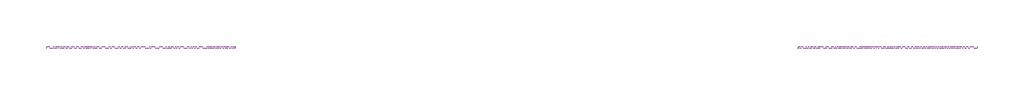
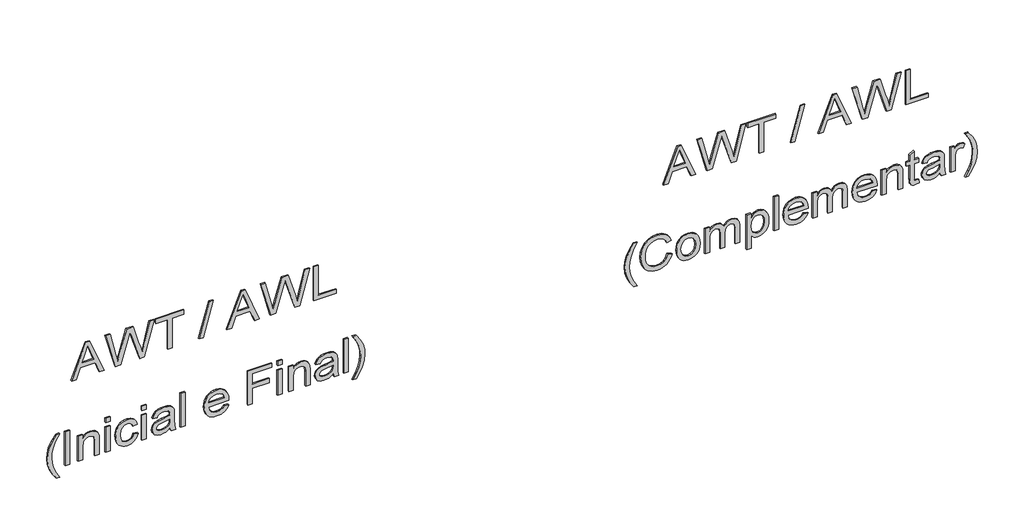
# One storey, part 14 of 14: 2 proxies.
"""IFC4 building model written with IfcOpenShell, lengths in millimetres."""

from ifc_helpers import new_model, si_unit, frame, origin, place, context, project, spatial, polyline, outline, extrude, element, save

model = new_model("IFC4")

# Units and contexts
model_context = context("Model", 3, world=origin())
ifc_project = project(units=[si_unit("LENGTHUNIT", "METRE", prefix="MILLI")], contexts=[model_context])

# Site, building, storey
site = spatial("IfcSite", under=ifc_project)
building = spatial("IfcBuilding", under=site)
storey = spatial("IfcBuildingStorey", under=building, Name="04 - Marelli - Planta Baixa - Painéis de Vidro", Elevation=36000.0)

# Proxies
placement = place(None, origin())
element("IfcBuildingElementProxy", 1, Name="300mm Arial", ObjectType="300mm Arial", at=placement, inside=storey, context=model_context, shape_type="SweptSolid", body=[
    extrude(outline(polyline([(42065.9244535, 122745.1054149), (42065.9244535, 122784.9102468), (42160.1022443, 122819.3440016), (42160.1022443, 122943.4673867), (42065.9244535, 122977.9747179), (42065.9244535, 123017.7795498), (42367.293384, 122897.4821373), (42367.293384, 122865.4028274), (42065.9244535, 122745.1054149)]), holes=[polyline([(42197.7733606, 122833.1763646), (42278.3395176, 122862.6805006), (42329.6222677, 122881.4424823), (42271.8647944, 122902.5589089), (42197.7733606, 122929.7086001), (42197.7733606, 122833.1763646)])]), frame((0.0, 8778.3159498, 0.0), z_axis=(0.0, 1.0, 0.0), x_axis=(0.0, 0.0, 1.0)), (0.0, 0.0, 1.0), 10.0),
    extrude(outline(polyline([(42065.9244535, 123111.9573405), (42065.9244535, 123157.4275551), (42291.8039986, 123223.2784323), (42330.8730665, 123234.6091977), (42298.4258745, 123244.6891644), (42065.9244535, 123316.9411882), (42065.9244535, 123357.1874785), (42367.293384, 123439.4458926), (42367.293384, 123400.5975539), (42167.4598842, 123352.478589), (42108.0837302, 123338.2047676), (42163.4131823, 123324.5011632), (42218.5954815, 123305.9047284), (42367.293384, 123262.494653), (42367.293384, 123206.5030133), (42162.1623835, 123146.7589773), (42108.0837302, 123131.0136279), (42169.2257178, 123116.2983481), (42367.293384, 123068.6208415), (42367.293384, 123029.7725028), (42065.9244535, 123111.9573405)])), frame((0.0, 8778.3159498, 0.0), z_axis=(0.0, 1.0, 0.0), x_axis=(0.0, 0.0, 1.0)), (0.0, 0.0, 1.0), 10.0),
    extrude(outline(polyline([(42065.9244535, 123552.4592416), (42065.9244535, 123590.1303579), (42329.6222677, 123590.1303579), (42329.6222677, 123689.0170382), (42367.293384, 123689.0170382), (42367.293384, 123453.5725612), (42329.6222677, 123453.5725612), (42329.6222677, 123552.4592416), (42065.9244535, 123552.4592416)])), frame((0.0, 8778.3159498, 0.0), z_axis=(0.0, 1.0, 0.0), x_axis=(0.0, 0.0, 1.0)), (0.0, 0.0, 1.0), 10.0),
    extrude(outline(polyline([(42065.9244535, 123816.1570557), (42065.9244535, 123850.149352), (42367.293384, 123934.9093637), (42367.293384, 123900.9170674), (42065.9244535, 123816.1570557)])), frame((0.0, 8778.3159498, 0.0), z_axis=(0.0, 1.0, 0.0), x_axis=(0.0, 0.0, 1.0)), (0.0, 0.0, 1.0), 10.0),
    extrude(outline(polyline([(42065.9244535, 124049.467817), (42065.9244535, 124089.2726489), (42160.1022443, 124123.7064037), (42160.1022443, 124247.8297888), (42065.9244535, 124282.33712), (42065.9244535, 124322.1419519), (42367.293384, 124201.8445394), (42367.293384, 124169.7652295), (42065.9244535, 124049.467817)]), holes=[polyline([(42197.7733606, 124137.5387667), (42278.3395176, 124167.0429027), (42329.6222677, 124185.8048844), (42271.8647944, 124206.921311), (42197.7733606, 124234.0710022), (42197.7733606, 124137.5387667)])]), frame((0.0, 8778.3159498, 0.0), z_axis=(0.0, 1.0, 0.0), x_axis=(0.0, 0.0, 1.0)), (0.0, 0.0, 1.0), 10.0),
    extrude(outline(polyline([(42065.9244535, 124416.3197426), (42065.9244535, 124461.7899572), (42291.8039986, 124527.6408344), (42330.8730665, 124538.9715998), (42298.4258745, 124549.0515665), (42065.9244535, 124621.3035903), (42065.9244535, 124661.5498806), (42367.293384, 124743.8082947), (42367.293384, 124704.959956), (42167.4598842, 124656.8409911), (42108.0837302, 124642.5671697), (42163.4131823, 124628.8635653), (42218.5954815, 124610.2671305), (42367.293384, 124566.8570551), (42367.293384, 124510.8654154), (42162.1623835, 124451.1213794), (42108.0837302, 124435.37603), (42169.2257178, 124420.6607502), (42367.293384, 124372.9832436), (42367.293384, 124334.1349049), (42065.9244535, 124416.3197426)])), frame((0.0, 8778.3159498, 0.0), z_axis=(0.0, 1.0, 0.0), x_axis=(0.0, 0.0, 1.0)), (0.0, 0.0, 1.0), 10.0),
    extrude(outline(polyline([(42065.9244535, 124781.479411), (42065.9244535, 124969.8349926), (42103.5955698, 124969.8349926), (42103.5955698, 124819.1505273), (42367.293384, 124819.1505273), (42367.293384, 124781.479411), (42065.9244535, 124781.479411)])), frame((0.0, 8778.3159498, 0.0), z_axis=(0.0, 1.0, 0.0), x_axis=(0.0, 0.0, 1.0)), (0.0, 0.0, 1.0), 10.0),
    extrude(outline(polyline([(41249.3155348, 122615.3902234), (41249.3155348, 122643.6435607), (41297.5540614, 122614.8016122), (41345.8109821, 122594.2002205), (41394.0862969, 122581.8393855), (41442.3800058, 122577.7191071), (41480.2534572, 122580.091946), (41517.9429677, 122587.2104626), (41575.7740173, 122608.4004655), (41635.4444769, 122643.6435607), (41635.4444769, 122615.3902234), (41584.934279, 122580.6989513), (41534.2033518, 122556.3819514), (41489.4137189, 122544.131481), (41442.600735, 122540.0479908), (41389.2210575, 122545.5110385), (41337.68079, 122561.9001813), (41290.2791949, 122586.1987871), (41249.3155348, 122615.3902234)])), frame((0.0, 8778.3159498, 0.0), z_axis=(0.0, 1.0, 0.0), x_axis=(0.0, 0.0, 1.0)), (0.0, 0.0, 1.0), 10.0),
    extrude(outline(polyline([(122728.4035724, 8778.3159498), (122690.732456, 8778.3159498), (122690.732456, 8788.3159498), (122728.4035724, 8788.3159498), (122728.4035724, 8778.3159498)])), frame((0.0, 0.0, 41334.0755465), z_axis=(0.0, 0.0, 1.0), x_axis=(1.0, 0.0, 0.0)), (0.0, 0.0, 1.0), 301.3689304),
    extrude(outline(polyline([(41334.0755465, 122799.0369154), (41334.0755465, 122836.7080317), (41451.5034793, 122836.7080317), (41486.2131456, 122841.003054), (41498.5877762, 122846.3718319), (41507.6422718, 122853.8881209), (41518.7339139, 122872.6960879), (41522.431128, 122894.7598106), (41520.7848561, 122908.6565529), (41515.8460403, 122920.6219148), (41508.1481095, 122929.9569205), (41498.2244927, 122935.962594), (41464.8943839, 122940.3036016), (41334.0755465, 122940.3036016), (41334.0755465, 122977.9747179), (41469.9711555, 122977.9747179), (41506.391473, 122975.9881551), (41534.0929872, 122964.6941779), (41544.6328064, 122954.5958171), (41552.9285454, 122940.4139662), (41558.3088196, 122923.4086209), (41560.1022443, 122904.8397772), (41557.8765582, 122883.8613065), (41551.1995, 122865.513192), (41540.0710697, 122849.7954337), (41524.4912672, 122836.7080317), (41555.3933548, 122836.7080317), (41555.3933548, 122799.0369154), (41334.0755465, 122799.0369154)])), frame((0.0, 8778.3159498, 0.0), z_axis=(0.0, 1.0, 0.0), x_axis=(0.0, 0.0, 1.0)), (0.0, 0.0, 1.0), 10.0),
    extrude(outline(polyline([(123067.4436191, 8778.3159498), (123029.7725028, 8778.3159498), (123029.7725028, 8788.3159498), (123067.4436191, 8788.3159498), (123067.4436191, 8778.3159498)])), frame((0.0, 0.0, 41597.7733606), z_axis=(0.0, 0.0, 1.0), x_axis=(1.0, 0.0, 0.0)), (0.0, 0.0, 1.0), 37.6711163),
    extrude(outline(polyline([(123067.4436191, 8778.3159498), (123029.7725028, 8778.3159498), (123029.7725028, 8788.3159498), (123067.4436191, 8788.3159498), (123067.4436191, 8778.3159498)])), frame((0.0, 0.0, 41334.0755465), z_axis=(0.0, 0.0, 1.0), x_axis=(1.0, 0.0, 0.0)), (0.0, 0.0, 1.0), 221.3178083),
    extrude(outline(polyline([(41414.1266686, 123265.2169797), (41393.2493654, 123258.7882419), (41378.5892679, 123247.1539738), (41369.9256469, 123231.160304), (41367.0377732, 123211.6533612), (41371.6638893, 123187.6214699), (41385.5422376, 123168.647956), (41409.6477053, 123156.3147121), (41444.9551798, 123152.2036308), (41479.7936048, 123156.4066826), (41503.816299, 123169.015838), (41517.7774208, 123188.3388398), (41522.431128, 123212.6834308), (41520.0674862, 123229.1737412), (41512.9765607, 123243.0336954), (41501.1951398, 123253.6746821), (41484.7600117, 123260.5080902), (41489.4689012, 123298.1792065), (41519.4512838, 123287.9244959), (41541.7081445, 123269.6683519), (41555.5037194, 123244.2201148), (41560.1022443, 123212.3891252), (41556.7545181, 123185.7452717), (41546.7113397, 123161.1431633), (41529.9635118, 123140.5785598), (41506.5018376, 123126.0472209), (41477.448357, 123117.4111911), (41443.9251102, 123114.5325145), (41417.8675687, 123116.2178739), (41395.024396, 123121.2739521), (41375.3955923, 123129.700749), (41358.9811575, 123141.4982647), (41346.0248135, 123156.0732895), (41336.7702821, 123172.8326137), (41331.2175632, 123191.7762372), (41329.3666569, 123212.90416), (41334.6733547, 123245.535293), (41350.593448, 123272.648196), (41375.9129264, 123292.3850651), (41409.4177791, 123302.888096), (41414.1266686, 123265.2169797)])), frame((0.0, 8778.3159498, 0.0), z_axis=(0.0, 1.0, 0.0), x_axis=(0.0, 0.0, 1.0)), (0.0, 0.0, 1.0), 10.0),
    extrude(outline(polyline([(123373.5214391, 8778.3159498), (123335.8503228, 8778.3159498), (123335.8503228, 8788.3159498), (123373.5214391, 8788.3159498), (123373.5214391, 8778.3159498)])), frame((0.0, 0.0, 41597.7733606), z_axis=(0.0, 0.0, 1.0), x_axis=(1.0, 0.0, 0.0)), (0.0, 0.0, 1.0), 37.6711163),
    extrude(outline(polyline([(123373.5214391, 8778.3159498), (123335.8503228, 8778.3159498), (123335.8503228, 8788.3159498), (123373.5214391, 8788.3159498), (123373.5214391, 8778.3159498)])), frame((0.0, 0.0, 41334.0755465), z_axis=(0.0, 0.0, 1.0), x_axis=(1.0, 0.0, 0.0)), (0.0, 0.0, 1.0), 221.3178083),
    extrude(outline(polyline([(41362.3288837, 123571.2947997), (41334.0755465, 123580.7125788), (41334.0755465, 123618.3836951), (41365.7501862, 123610.8789024), (41431.1963932, 123608.965916), (41478.0645594, 123608.965916), (41511.0267861, 123607.126506), (41525.1442577, 123602.5831634), (41536.5945848, 123595.5750114), (41545.856014, 123585.0076011), (41553.406792, 123569.7864835), (41558.4283812, 123549.598959), (41560.1022443, 123524.1323279), (41558.207652, 123497.5804449), (41552.5238752, 123474.4314704), (41543.3452194, 123455.5039417), (41530.9659903, 123441.6163964), (41514.7791825, 123431.8583265), (41494.1777908, 123425.319224), (41489.4689012, 123462.9903403), (41505.1314772, 123470.4767389), (41515.1838527, 123481.1637109), (41520.6193092, 123496.8354839), (41522.431128, 123519.2762856), (41519.7088012, 123543.5197091), (41511.5418209, 123560.9205274), (41500.5421493, 123568.7012316), (41483.7299421, 123571.2947997), (41475.3422326, 123571.0740705), (41468.3524747, 123544.2554731), (41462.3927864, 123505.7382282), (41456.7274037, 123473.1438834), (41444.3665686, 123446.7667443), (41434.8752131, 123436.1625458), (41422.7351073, 123427.8208216), (41408.5532564, 123422.4129563), (41392.9366657, 123420.6103345), (41367.6079903, 123425.3836034), (41347.2457219, 123439.70341), (41333.8364232, 123462.925961), (41329.3666569, 123494.4074627), (41331.224461, 123515.2755689), (41336.7978732, 123534.7641176), (41346.896234, 123553.2961731), (41362.3288837, 123571.2947997)]), holes=[polyline([(41437.6711163, 123571.2947997), (41427.0025384, 123571.0740705), (41410.0799667, 123569.5841484), (41397.8662844, 123565.1143822), (41386.0112871, 123555.0344155), (41376.0508821, 123540.5398649), (41369.2910505, 123522.6607999), (41367.0377732, 123502.4272902), (41369.0795183, 123483.3434117), (41375.2047535, 123469.5018516), (41384.3834093, 123461.086551), (41395.5854161, 123458.2814508), (41410.0799667, 123463.4317987), (41420.0127805, 123478.1102903), (41426.1196217, 123510.5206941), (41437.6711163, 123571.2947997)])]), frame((0.0, 8778.3159498, 0.0), z_axis=(0.0, 1.0, 0.0), x_axis=(0.0, 0.0, 1.0)), (0.0, 0.0, 1.0), 10.0),
    extrude(outline(polyline([(123698.4348172, 8778.3159498), (123660.7637009, 8778.3159498), (123660.7637009, 8788.3159498), (123698.4348172, 8788.3159498), (123698.4348172, 8778.3159498)])), frame((0.0, 0.0, 41334.0755465), z_axis=(0.0, 0.0, 1.0), x_axis=(1.0, 0.0, 0.0)), (0.0, 0.0, 1.0), 301.3689304),
    extrude(outline(polyline([(41400.0, 124027.6156265), (41385.1191733, 124017.0574133), (41374.9104479, 124003.3354148), (41369.0059419, 123986.4496313), (41367.0377732, 123966.4000625), (41371.2868103, 123939.7378149), (41384.0339214, 123917.8764274), (41404.7640718, 123902.7288862), (41432.9622268, 123896.2081778), (41432.9622268, 124065.507472), (41443.1157698, 124065.7282012), (41469.3687487, 124063.9416743), (41492.5039277, 124058.5820935), (41512.5213067, 124049.6494588), (41529.4208859, 124037.1437702), (41542.8439802, 124021.8237844), (41552.4319047, 124004.4482579), (41558.1846594, 123985.0171907), (41560.1022443, 123963.530583), (41558.1800609, 123941.3289046), (41552.4135106, 123921.2977299), (41542.8025935, 123903.437059), (41529.3473095, 123887.746892), (41512.4109422, 123874.9675911), (41492.3567749, 123865.8395191), (41469.1848077, 123860.3626759), (41442.8950406, 123858.5370615), (41417.467497, 123860.3442818), (41395.0427901, 123865.7659427), (41375.62092, 123874.8020442), (41359.2018867, 123887.4525864), (41346.1489737, 123903.1841402), (41336.8254644, 123921.4632768), (41331.2313588, 123942.2899963), (41329.3666569, 123965.6642985), (41333.6892704, 124001.3212609), (41346.6571107, 124030.0068595), (41367.4608375, 124051.2428477), (41395.2911105, 124064.5509788), (41400.0, 124027.6156265)]), holes=[polyline([(41470.6333431, 123896.2081778), (41491.8693312, 123902.3977924), (41508.3412476, 123916.9935106), (41518.9086579, 123937.9903754), (41522.431128, 123963.3834302), (41518.0165441, 123991.011368), (41504.7727922, 124012.9739231), (41490.535759, 124022.9619193), (41470.6333431, 124028.0570849), (41470.6333431, 123896.2081778)])]), frame((0.0, 8778.3159498, 0.0), z_axis=(0.0, 1.0, 0.0), x_axis=(0.0, 0.0, 1.0)), (0.0, 0.0, 1.0), 10.0),
    extrude(outline(polyline([(41334.0755465, 124225.8304455), (41334.0755465, 124263.5015618), (41470.6333431, 124263.5015618), (41470.6333431, 124404.768248), (41508.3044594, 124404.768248), (41508.3044594, 124263.5015618), (41597.7733606, 124263.5015618), (41597.7733606, 124428.3126957), (41635.4444769, 124428.3126957), (41635.4444769, 124225.8304455), (41334.0755465, 124225.8304455)])), frame((0.0, 8778.3159498, 0.0), z_axis=(0.0, 1.0, 0.0), x_axis=(0.0, 0.0, 1.0)), (0.0, 0.0, 1.0), 10.0),
    extrude(outline(polyline([(124513.0727074, 8778.3159498), (124475.4015911, 8778.3159498), (124475.4015911, 8788.3159498), (124513.0727074, 8788.3159498), (124513.0727074, 8778.3159498)])), frame((0.0, 0.0, 41597.7733606), z_axis=(0.0, 0.0, 1.0), x_axis=(1.0, 0.0, 0.0)), (0.0, 0.0, 1.0), 37.6711163),
    extrude(outline(polyline([(124513.0727074, 8778.3159498), (124475.4015911, 8778.3159498), (124475.4015911, 8788.3159498), (124513.0727074, 8788.3159498), (124513.0727074, 8778.3159498)])), frame((0.0, 0.0, 41334.0755465), z_axis=(0.0, 0.0, 1.0), x_axis=(1.0, 0.0, 0.0)), (0.0, 0.0, 1.0), 221.3178083),
    extrude(outline(polyline([(41334.0755465, 124569.5793818), (41334.0755465, 124607.2504981), (41451.5034793, 124607.2504981), (41486.2131456, 124611.5455204), (41498.5877762, 124616.9142983), (41507.6422718, 124624.4305873), (41518.7339139, 124643.2385543), (41522.431128, 124665.302277), (41520.7848561, 124679.1990193), (41515.8460403, 124691.1643812), (41508.1481095, 124700.4993868), (41498.2244927, 124706.5050604), (41464.8943839, 124710.846068), (41334.0755465, 124710.846068), (41334.0755465, 124748.5171843), (41469.9711555, 124748.5171843), (41506.391473, 124746.5306215), (41534.0929872, 124735.2366442), (41544.6328064, 124725.1382835), (41552.9285454, 124710.9564326), (41558.3088196, 124693.9510873), (41560.1022443, 124675.3822436), (41557.8765582, 124654.4037729), (41551.1995, 124636.0556583), (41540.0710697, 124620.3379001), (41524.4912672, 124607.2504981), (41555.3933548, 124607.2504981), (41555.3933548, 124569.5793818), (41334.0755465, 124569.5793818)])), frame((0.0, 8778.3159498, 0.0), z_axis=(0.0, 1.0, 0.0), x_axis=(0.0, 0.0, 1.0)), (0.0, 0.0, 1.0), 10.0),
    extrude(outline(polyline([(41362.3288837, 124941.5816553), (41334.0755465, 124950.9994344), (41334.0755465, 124988.6705507), (41365.7501862, 124981.165758), (41431.1963932, 124979.2527716), (41478.0645594, 124979.2527716), (41511.0267861, 124977.4133617), (41525.1442577, 124972.870019), (41536.5945848, 124965.861867), (41545.856014, 124955.2944567), (41553.406792, 124940.0733392), (41558.4283812, 124919.8858147), (41560.1022443, 124894.4191836), (41558.207652, 124867.8673006), (41552.5238752, 124844.718326), (41543.3452194, 124825.7907974), (41530.9659903, 124811.903252), (41514.7791825, 124802.1451821), (41494.1777908, 124795.6060797), (41489.4689012, 124833.277196), (41505.1314772, 124840.7635946), (41515.1838527, 124851.4505665), (41520.6193092, 124867.1223395), (41522.431128, 124889.5631412), (41519.7088012, 124913.8065647), (41511.5418209, 124931.2073831), (41500.5421493, 124938.9880873), (41483.7299421, 124941.5816553), (41475.3422326, 124941.3609261), (41468.3524747, 124914.5423287), (41462.3927864, 124876.0250838), (41456.7274037, 124843.430739), (41444.3665686, 124817.0536), (41434.8752131, 124806.4494015), (41422.7351073, 124798.1076772), (41408.5532564, 124792.6998119), (41392.9366657, 124790.8971901), (41367.6079903, 124795.670459), (41347.2457219, 124809.9902657), (41333.8364232, 124833.2128166), (41329.3666569, 124864.6943183), (41331.224461, 124885.5624245), (41336.7978732, 124905.0509732), (41346.896234, 124923.5830287), (41362.3288837, 124941.5816553)]), holes=[polyline([(41437.6711163, 124941.5816553), (41427.0025384, 124941.3609261), (41410.0799667, 124939.8710041), (41397.8662844, 124935.4012378), (41386.0112871, 124925.3212712), (41376.0508821, 124910.8267205), (41369.2910505, 124892.9476556), (41367.0377732, 124872.7141458), (41369.0795183, 124853.6302673), (41375.2047535, 124839.7887073), (41384.3834093, 124831.3734066), (41395.5854161, 124828.5683064), (41410.0799667, 124833.7186544), (41420.0127805, 124848.397146), (41426.1196217, 124880.8075497), (41437.6711163, 124941.5816553)])]), frame((0.0, 8778.3159498, 0.0), z_axis=(0.0, 1.0, 0.0), x_axis=(0.0, 0.0, 1.0)), (0.0, 0.0, 1.0), 10.0),
    extrude(outline(polyline([(125068.7216729, 8778.3159498), (125031.0505566, 8778.3159498), (125031.0505566, 8788.3159498), (125068.7216729, 8788.3159498), (125068.7216729, 8778.3159498)])), frame((0.0, 0.0, 41334.0755465), z_axis=(0.0, 0.0, 1.0), x_axis=(1.0, 0.0, 0.0)), (0.0, 0.0, 1.0), 301.3689304),
    extrude(outline(polyline([(41249.3155348, 125134.6461264), (41290.2791949, 125163.699607), (41337.68079, 125188.0258039), (41389.2210575, 125204.4977202), (41442.600735, 125209.988359), (41489.4137189, 125205.9048689), (41534.2033518, 125193.6543984), (41584.934279, 125169.3373986), (41635.4444769, 125134.6461264), (41635.4444769, 125106.3927892), (41575.1854061, 125141.8566135), (41546.8400984, 125153.8311725), (41517.2807801, 125162.8258872), (41479.9775458, 125169.9444038), (41442.3800058, 125172.3172427), (41394.0862969, 125168.1969644), (41345.8109821, 125155.8361293), (41297.5540614, 125135.2347376), (41249.3155348, 125106.3927892), (41249.3155348, 125134.6461264)])), frame((0.0, 8778.3159498, 0.0), z_axis=(0.0, 1.0, 0.0), x_axis=(0.0, 0.0, 1.0)), (0.0, 0.0, 1.0), 10.0),
])
element("IfcBuildingElementProxy", 2, Name="300mm Arial", ObjectType="300mm Arial", at=placement, inside=storey, context=model_context, shape_type="SweptSolid", body=[
    extrude(outline(polyline([(42065.9244535, 127716.8520777), (42065.9244535, 127756.6569096), (42160.1022443, 127791.0906643), (42160.1022443, 127915.2140495), (42065.9244535, 127949.7213807), (42065.9244535, 127989.5262125), (42367.293384, 127869.2288001), (42367.293384, 127837.1494901), (42065.9244535, 127716.8520777)]), holes=[polyline([(42197.7733606, 127804.9230274), (42278.3395176, 127834.4271634), (42329.6222677, 127853.1891451), (42271.8647944, 127874.3055716), (42197.7733606, 127901.4552629), (42197.7733606, 127804.9230274)])]), frame((0.0, 8778.3159498, 0.0), z_axis=(0.0, 1.0, 0.0), x_axis=(0.0, 0.0, 1.0)), (0.0, 0.0, 1.0), 10.0),
    extrude(outline(polyline([(42065.9244535, 128083.7040033), (42065.9244535, 128129.1742179), (42291.8039986, 128195.025095), (42330.8730665, 128206.3558605), (42298.4258745, 128216.4358272), (42065.9244535, 128288.687851), (42065.9244535, 128328.9341413), (42367.293384, 128411.1925554), (42367.293384, 128372.3442167), (42167.4598842, 128324.2252517), (42108.0837302, 128309.9514303), (42163.4131823, 128296.247826), (42218.5954815, 128277.6513912), (42367.293384, 128234.2413157), (42367.293384, 128178.2496761), (42162.1623835, 128118.50564), (42108.0837302, 128102.7602906), (42169.2257178, 128088.0450108), (42367.293384, 128040.3675043), (42367.293384, 128001.5191656), (42065.9244535, 128083.7040033)])), frame((0.0, 8778.3159498, 0.0), z_axis=(0.0, 1.0, 0.0), x_axis=(0.0, 0.0, 1.0)), (0.0, 0.0, 1.0), 10.0),
    extrude(outline(polyline([(42065.9244535, 128524.2059043), (42065.9244535, 128561.8770206), (42329.6222677, 128561.8770206), (42329.6222677, 128660.7637009), (42367.293384, 128660.7637009), (42367.293384, 128425.319224), (42329.6222677, 128425.319224), (42329.6222677, 128524.2059043), (42065.9244535, 128524.2059043)])), frame((0.0, 8778.3159498, 0.0), z_axis=(0.0, 1.0, 0.0), x_axis=(0.0, 0.0, 1.0)), (0.0, 0.0, 1.0), 10.0),
    extrude(outline(polyline([(42065.9244535, 128787.9037185), (42065.9244535, 128821.8960148), (42367.293384, 128906.6560265), (42367.293384, 128872.6637302), (42065.9244535, 128787.9037185)])), frame((0.0, 8778.3159498, 0.0), z_axis=(0.0, 1.0, 0.0), x_axis=(0.0, 0.0, 1.0)), (0.0, 0.0, 1.0), 10.0),
    extrude(outline(polyline([(42065.9244535, 129021.2144798), (42065.9244535, 129061.0193117), (42160.1022443, 129095.4530664), (42160.1022443, 129219.5764516), (42065.9244535, 129254.0837828), (42065.9244535, 129293.8886146), (42367.293384, 129173.5912022), (42367.293384, 129141.5118922), (42065.9244535, 129021.2144798)]), holes=[polyline([(42197.7733606, 129109.2854295), (42278.3395176, 129138.7895655), (42329.6222677, 129157.5515472), (42271.8647944, 129178.6679737), (42197.7733606, 129205.817665), (42197.7733606, 129109.2854295)])]), frame((0.0, 8778.3159498, 0.0), z_axis=(0.0, 1.0, 0.0), x_axis=(0.0, 0.0, 1.0)), (0.0, 0.0, 1.0), 10.0),
    extrude(outline(polyline([(42065.9244535, 129388.0664054), (42065.9244535, 129433.53662), (42291.8039986, 129499.3874971), (42330.8730665, 129510.7182626), (42298.4258745, 129520.7982293), (42065.9244535, 129593.0502531), (42065.9244535, 129633.2965434), (42367.293384, 129715.5549575), (42367.293384, 129676.7066188), (42167.4598842, 129628.5876538), (42108.0837302, 129614.3138324), (42163.4131823, 129600.6102281), (42218.5954815, 129582.0137933), (42367.293384, 129538.6037178), (42367.293384, 129482.6120782), (42162.1623835, 129422.8680421), (42108.0837302, 129407.1226927), (42169.2257178, 129392.4074129), (42367.293384, 129344.7299064), (42367.293384, 129305.8815677), (42065.9244535, 129388.0664054)])), frame((0.0, 8778.3159498, 0.0), z_axis=(0.0, 1.0, 0.0), x_axis=(0.0, 0.0, 1.0)), (0.0, 0.0, 1.0), 10.0),
    extrude(outline(polyline([(42065.9244535, 129753.2260738), (42065.9244535, 129941.5816553), (42103.5955698, 129941.5816553), (42103.5955698, 129790.8971901), (42367.293384, 129790.8971901), (42367.293384, 129753.2260738), (42065.9244535, 129753.2260738)])), frame((0.0, 8778.3159498, 0.0), z_axis=(0.0, 1.0, 0.0), x_axis=(0.0, 0.0, 1.0)), (0.0, 0.0, 1.0), 10.0),
    extrude(outline(polyline([(41249.3155348, 127469.4146478), (41249.3155348, 127497.667985), (41297.5540614, 127468.8260366), (41345.8109821, 127448.2246448), (41394.0862969, 127435.8638098), (41442.3800058, 127431.7435314), (41480.2534572, 127434.1163703), (41517.9429677, 127441.2348869), (41575.7740173, 127462.4248898), (41635.4444769, 127497.667985), (41635.4444769, 127469.4146478), (41584.934279, 127434.7233756), (41534.2033518, 127410.4063757), (41489.4137189, 127398.1559053), (41442.600735, 127394.0724151), (41389.2210575, 127399.5354628), (41337.68079, 127415.9246057), (41290.2791949, 127440.2232114), (41249.3155348, 127469.4146478)])), frame((0.0, 8778.3159498, 0.0), z_axis=(0.0, 1.0, 0.0), x_axis=(0.0, 0.0, 1.0)), (0.0, 0.0, 1.0), 10.0),
    extrude(outline(polyline([(41441.2027835, 127751.94802), (41408.9395325, 127739.761929), (41385.7261786, 127719.9790747), (41371.7098746, 127693.7766796), (41367.0377732, 127662.331966), (41370.4682728, 127635.3570187), (41380.7597717, 127610.3502401), (41397.9858461, 127589.491331), (41422.2200725, 127574.9599922), (41452.3128197, 127566.4343269), (41487.1144565, 127563.5924385), (41515.5333406, 127565.9928685), (41543.1060961, 127573.1941586), (41567.4966724, 127586.3183488), (41586.3690188, 127606.4874792), (41598.4539423, 127633.0669533), (41602.4822501, 127665.4221748), (41598.8494154, 127693.491571), (41587.9509113, 127716.3370429), (41569.1061561, 127734.1793197), (41541.6345681, 127747.2391305), (41550.6108888, 127784.9102468), (41588.4291579, 127768.2727836), (41603.751443, 127756.4706693), (41616.6824952, 127742.3463), (41626.9510013, 127726.16639), (41634.2856486, 127708.1976538), (41640.1533665, 127666.8937028), (41635.6192209, 127629.0386455), (41622.0167841, 127594.4945261), (41599.6771499, 127565.3674691), (41568.9314122, 127543.763599), (41530.9843844, 127530.3818914), (41487.0408801, 127525.9213222), (41445.3782441, 127529.8668566), (41406.4747231, 127541.7034598), (41373.3837376, 127561.0908409), (41349.1587083, 127587.6887092), (41334.3146698, 127622.3891784), (41329.3666569, 127666.0843624), (41331.0014325, 127688.50677), (41335.9057594, 127709.1265558), (41344.0796375, 127727.9437199), (41355.5230668, 127744.9582621), (41370.0796975, 127759.8344903), (41387.5931797, 127772.2367121), (41408.0635135, 127782.1649274), (41431.4906988, 127789.6191364), (41441.2027835, 127751.94802)])), frame((0.0, 8778.3159498, 0.0), z_axis=(0.0, 1.0, 0.0), x_axis=(0.0, 0.0, 1.0)), (0.0, 0.0, 1.0), 10.0),
    extrude(outline(polyline([(41444.7344506, 127827.2902527), (41418.4124939, 127828.9986047), (41395.3646869, 127834.1236607), (41375.5910296, 127842.6654208), (41359.0915221, 127854.6238849), (41346.0868936, 127869.350661), (41336.7978732, 127886.1973571), (41331.224461, 127905.1639733), (41329.3666569, 127926.2505094), (41332.7419742, 127952.8391806), (41342.8679261, 127977.2757421), (41359.1007192, 127997.8495427), (41380.7965599, 128012.849931), (41409.767267, 128022.0101927), (41447.8246594, 128025.0636133), (41472.7049786, 128023.3368672), (41494.7388108, 128018.1566288), (41513.9261561, 128009.5228982), (41530.2670145, 127997.4356754), (41543.3199275, 127982.6261259), (41552.6434368, 127965.825415), (41558.2375424, 127947.0335428), (41560.1022443, 127926.2505094), (41558.5709355, 127907.4241483), (41553.9770091, 127890.0877092), (41546.3204651, 127874.2411923), (41535.6013034, 127859.8845974), (41518.830483, 127845.6245716), (41498.095734, 127835.4388389), (41473.3970566, 127829.3273992), (41444.7344506, 127827.2902527)]), holes=[polyline([(41444.808027, 127864.961369), (41478.8830968, 127869.3207706), (41503.1173232, 127882.3989755), (41517.6026768, 127902.0806623), (41522.431128, 127926.2505094), (41517.5842827, 127950.1720361), (41503.0437468, 127969.8445258), (41479.0854319, 127983.0055042), (41445.9852494, 127987.392497), (41411.1468245, 127983.0330953), (41386.535519, 127969.9548904), (41371.9122097, 127950.3099918), (41367.0377732, 127926.2505094), (41371.8846185, 127902.0806623), (41386.4251544, 127882.3989755), (41410.7145631, 127869.3207706), (41444.808027, 127864.961369)])]), frame((0.0, 8778.3159498, 0.0), z_axis=(0.0, 1.0, 0.0), x_axis=(0.0, 0.0, 1.0)), (0.0, 0.0, 1.0), 10.0),
    extrude(outline(polyline([(41334.0755465, 128067.4436191), (41334.0755465, 128105.1147354), (41445.6909438, 128105.1147354), (41471.6082304, 128106.5494752), (41490.6461236, 128110.8536945), (41504.368122, 128118.3584872), (41514.3377241, 128129.3949471), (41520.407777, 128142.7674576), (41522.431128, 128157.2804023), (41519.3961015, 128174.359324), (41510.2910222, 128185.8648334), (41495.0974958, 128192.4039358), (41473.7971282, 128194.5836366), (41334.0755465, 128194.5836366), (41334.0755465, 128232.2547529), (41459.008272, 128232.2547529), (41487.7214617, 128235.94277), (41507.3479662, 128247.006821), (41518.6603375, 128263.6442842), (41522.431128, 128284.0525379), (41520.9596, 128295.6132296), (41516.5450161, 128305.5736346), (41509.7300021, 128313.3175506), (41501.0571841, 128318.2287752), (41469.6032735, 128321.7236542), (41334.0755465, 128321.7236542), (41334.0755465, 128359.3947705), (41485.7900813, 128359.3947705), (41518.7615051, 128355.0813541), (41541.8920855, 128342.1411049), (41555.5497046, 128321.1994223), (41560.1022443, 128292.8817058), (41557.366122, 128273.3563689), (41549.1577549, 128255.7624124), (41535.4771432, 128240.0998365), (41516.3242869, 128226.368641), (41534.7643719, 128218.1648725), (41548.5875379, 128205.6200965), (41557.2235677, 128188.8262834), (41560.1022443, 128167.8754038), (41557.27875, 128148.3224757), (41548.808267, 128131.0136279), (41535.702471, 128116.4455009), (41518.9730372, 128105.1147354), (41555.3933548, 128105.1147354), (41555.3933548, 128067.4436191), (41334.0755465, 128067.4436191)])), frame((0.0, 8778.3159498, 0.0), z_axis=(0.0, 1.0, 0.0), x_axis=(0.0, 0.0, 1.0)), (0.0, 0.0, 1.0), 10.0),
    extrude(outline(polyline([(41249.3155348, 128415.9014449), (41249.3155348, 128453.5725612), (41363.5061061, 128453.5725612), (41349.9956398, 128464.213548), (41339.0419534, 128477.4481027), (41331.785481, 128492.9083436), (41329.3666569, 128510.2263885), (41332.9810975, 128534.6445559), (41343.8244193, 128557.8671069), (41361.4459669, 128577.806311), (41385.3950848, 128592.374438), (41414.2094421, 128601.2863794), (41446.4267078, 128604.2570265), (41476.7217901, 128601.6266702), (41504.4784866, 128593.7356014), (41527.9861461, 128580.6757906), (41545.5341173, 128562.5392082), (41556.4602125, 128540.2639534), (41560.1022443, 128514.7881252), (41557.4994792, 128495.6582615), (41549.6911838, 128479.6186065), (41536.6773583, 128465.8598199), (41518.4580024, 128453.5725612), (41555.3933548, 128453.5725612), (41555.3933548, 128415.9014449), (41249.3155348, 128415.9014449)]), holes=[polyline([(41442.968617, 128453.5725612), (41477.1356573, 128457.9227658), (41502.0872537, 128470.9733796), (41517.3451594, 128489.670982), (41522.431128, 128510.9621525), (41517.6486621, 128532.1705495), (41503.3012642, 128550.1783732), (41479.3521464, 128562.4840259), (41445.7645202, 128566.5859102), (41410.7237602, 128562.3828584), (41386.2412134, 128549.773703), (41371.8386333, 128531.2784357), (41367.0377732, 128509.4170481), (41371.6730864, 128487.9051484), (41385.5790258, 128469.8697336), (41409.1970499, 128457.6468543), (41442.968617, 128453.5725612)])]), frame((0.0, 8778.3159498, 0.0), z_axis=(0.0, 1.0, 0.0), x_axis=(0.0, 0.0, 1.0)), (0.0, 0.0, 1.0), 10.0),
    extrude(outline(polyline([(128684.3081486, 8778.3159498), (128646.6370323, 8778.3159498), (128646.6370323, 8788.3159498), (128684.3081486, 8788.3159498), (128684.3081486, 8778.3159498)])), frame((0.0, 0.0, 41334.0755465), z_axis=(0.0, 0.0, 1.0), x_axis=(1.0, 0.0, 0.0)), (0.0, 0.0, 1.0), 301.3689304),
    extrude(outline(polyline([(41400.0, 128895.7667195), (41385.1191733, 128885.2085062), (41374.9104479, 128871.4865078), (41369.0059419, 128854.6007242), (41367.0377732, 128834.5511555), (41371.2868103, 128807.8889079), (41384.0339214, 128786.0275203), (41404.7640718, 128770.8799791), (41432.9622268, 128764.3592708), (41432.9622268, 128933.658565), (41443.1157698, 128933.8792942), (41469.3687487, 128932.0927672), (41492.5039277, 128926.7331864), (41512.5213067, 128917.8005517), (41529.4208859, 128905.2948631), (41542.8439802, 128889.9748773), (41552.4319047, 128872.5993508), (41558.1846594, 128853.1682837), (41560.1022443, 128831.6816759), (41558.1800609, 128809.4799975), (41552.4135106, 128789.4488228), (41542.8025935, 128771.588152), (41529.3473095, 128755.8979849), (41512.4109422, 128743.1186841), (41492.3567749, 128733.9906121), (41469.1848077, 128728.5137689), (41442.8950406, 128726.6881545), (41417.467497, 128728.4953748), (41395.0427901, 128733.9170357), (41375.62092, 128742.9531372), (41359.2018867, 128755.6036793), (41346.1489737, 128771.3352331), (41336.8254644, 128789.6143697), (41331.2313588, 128810.4410892), (41329.3666569, 128833.8153915), (41333.6892704, 128869.4723538), (41346.6571107, 128898.1579524), (41367.4608375, 128919.3939406), (41395.2911105, 128932.7020718), (41400.0, 128895.7667195)]), holes=[polyline([(41470.6333431, 128764.3592708), (41491.8693312, 128770.5488853), (41508.3412476, 128785.1446035), (41518.9086579, 128806.1414684), (41522.431128, 128831.5345231), (41518.0165441, 128859.1624609), (41504.7727922, 128881.125016), (41490.535759, 128891.1130122), (41470.6333431, 128896.2081778), (41470.6333431, 128764.3592708)])]), frame((0.0, 8778.3159498, 0.0), z_axis=(0.0, 1.0, 0.0), x_axis=(0.0, 0.0, 1.0)), (0.0, 0.0, 1.0), 10.0),
    extrude(outline(polyline([(41334.0755465, 128971.5504105), (41334.0755465, 129009.2215268), (41445.6909438, 129009.2215268), (41471.6082304, 129010.6562665), (41490.6461236, 129014.9604859), (41504.368122, 129022.4652786), (41514.3377241, 129033.5017384), (41520.407777, 129046.874249), (41522.431128, 129061.3871937), (41519.3961015, 129078.4661153), (41510.2910222, 129089.9716247), (41495.0974958, 129096.5107272), (41473.7971282, 129098.690428), (41334.0755465, 129098.690428), (41334.0755465, 129136.3615443), (41459.008272, 129136.3615443), (41487.7214617, 129140.0495613), (41507.3479662, 129151.1136123), (41518.6603375, 129167.7510755), (41522.431128, 129188.1593292), (41520.9596, 129199.7200209), (41516.5450161, 129209.6804259), (41509.7300021, 129217.4243419), (41501.0571841, 129222.3355666), (41469.6032735, 129225.8304455), (41334.0755465, 129225.8304455), (41334.0755465, 129263.5015618), (41485.7900813, 129263.5015618), (41518.7615051, 129259.1881454), (41541.8920855, 129246.2478963), (41555.5497046, 129225.3062137), (41560.1022443, 129196.9884971), (41557.366122, 129177.4631602), (41549.1577549, 129159.8692038), (41535.4771432, 129144.2066278), (41516.3242869, 129130.4754324), (41534.7643719, 129122.2716639), (41548.5875379, 129109.7268878), (41557.2235677, 129092.9330748), (41560.1022443, 129071.9821951), (41557.27875, 129052.4292671), (41548.808267, 129035.1204192), (41535.702471, 129020.5522922), (41518.9730372, 129009.2215268), (41555.3933548, 129009.2215268), (41555.3933548, 128971.5504105), (41334.0755465, 128971.5504105)])), frame((0.0, 8778.3159498, 0.0), z_axis=(0.0, 1.0, 0.0), x_axis=(0.0, 0.0, 1.0)), (0.0, 0.0, 1.0), 10.0),
    extrude(outline(polyline([(41400.0, 129474.9601327), (41385.1191733, 129464.4019194), (41374.9104479, 129450.679921), (41369.0059419, 129433.7941374), (41367.0377732, 129413.7445687), (41371.2868103, 129387.0823211), (41384.0339214, 129365.2209335), (41404.7640718, 129350.0733923), (41432.9622268, 129343.552684), (41432.9622268, 129512.8519782), (41443.1157698, 129513.0727074), (41469.3687487, 129511.2861804), (41492.5039277, 129505.9265996), (41512.5213067, 129496.9939649), (41529.4208859, 129484.4882763), (41542.8439802, 129469.1682905), (41552.4319047, 129451.792764), (41558.1846594, 129432.3616969), (41560.1022443, 129410.8750891), (41558.1800609, 129388.6734107), (41552.4135106, 129368.6422361), (41542.8025935, 129350.7815652), (41529.3473095, 129335.0913981), (41512.4109422, 129322.3120973), (41492.3567749, 129313.1840253), (41469.1848077, 129307.7071821), (41442.8950406, 129305.8815677), (41417.467497, 129307.688788), (41395.0427901, 129313.1104489), (41375.62092, 129322.1465504), (41359.2018867, 129334.7970925), (41346.1489737, 129350.5286463), (41336.8254644, 129368.8077829), (41331.2313588, 129389.6345024), (41329.3666569, 129413.0088047), (41333.6892704, 129448.6657671), (41346.6571107, 129477.3513656), (41367.4608375, 129498.5873538), (41395.2911105, 129511.895485), (41400.0, 129474.9601327)]), holes=[polyline([(41470.6333431, 129343.552684), (41491.8693312, 129349.7422985), (41508.3412476, 129364.3380167), (41518.9086579, 129385.3348816), (41522.431128, 129410.7279363), (41518.0165441, 129438.3558741), (41504.7727922, 129460.3184292), (41490.535759, 129470.3064254), (41470.6333431, 129475.4015911), (41470.6333431, 129343.552684)])]), frame((0.0, 8778.3159498, 0.0), z_axis=(0.0, 1.0, 0.0), x_axis=(0.0, 0.0, 1.0)), (0.0, 0.0, 1.0), 10.0),
    extrude(outline(polyline([(41334.0755465, 129550.7438237), (41334.0755465, 129588.41494), (41451.5034793, 129588.41494), (41486.2131456, 129592.7099623), (41498.5877762, 129598.0787401), (41507.6422718, 129605.5950291), (41518.7339139, 129624.4029961), (41522.431128, 129646.4667188), (41520.7848561, 129660.3634612), (41515.8460403, 129672.3288231), (41508.1481095, 129681.6638287), (41498.2244927, 129687.6695023), (41464.8943839, 129692.0105098), (41334.0755465, 129692.0105098), (41334.0755465, 129729.6816261), (41469.9711555, 129729.6816261), (41506.391473, 129727.6950633), (41534.0929872, 129716.4010861), (41544.6328064, 129706.3027253), (41552.9285454, 129692.1208744), (41558.3088196, 129675.1155292), (41560.1022443, 129656.5466855), (41557.8765582, 129635.5682147), (41551.1995, 129617.2201002), (41540.0710697, 129601.5023419), (41524.4912672, 129588.41494), (41555.3933548, 129588.41494), (41555.3933548, 129550.7438237), (41334.0755465, 129550.7438237)])), frame((0.0, 8778.3159498, 0.0), z_axis=(0.0, 1.0, 0.0), x_axis=(0.0, 0.0, 1.0)), (0.0, 0.0, 1.0), 10.0),
    extrude(outline(polyline([(41365.4926689, 129861.5305332), (41367.0377732, 129845.1229962), (41369.576159, 129832.2839146), (41376.4555523, 129825.8459797), (41395.8797217, 129823.8594169), (41517.7222385, 129823.8594169), (41517.7222385, 129861.5305332), (41555.3933548, 129861.5305332), (41555.3933548, 129823.8594169), (41631.3241986, 129823.8594169), (41609.1777025, 129786.1883006), (41555.3933548, 129786.1883006), (41555.3933548, 129757.9349633), (41517.7222385, 129757.9349633), (41517.7222385, 129786.1883006), (41394.7760757, 129786.1883006), (41367.7919313, 129787.3287348), (41352.0281878, 129790.7500373), (41342.849532, 129796.967243), (41335.6206508, 129806.4953867), (41330.9301554, 129819.9782618), (41329.3666569, 129838.0596619), (41332.9719005, 129866.2394227), (41365.4926689, 129861.5305332)])), frame((0.0, 8778.3159498, 0.0), z_axis=(0.0, 1.0, 0.0), x_axis=(0.0, 0.0, 1.0)), (0.0, 0.0, 1.0), 10.0),
    extrude(outline(polyline([(41362.3288837, 130040.4683356), (41334.0755465, 130049.8861147), (41334.0755465, 130087.557231), (41365.7501862, 130080.0524383), (41431.1963932, 130078.1394519), (41478.0645594, 130078.1394519), (41511.0267861, 130076.300042), (41525.1442577, 130071.7566993), (41536.5945848, 130064.7485473), (41545.856014, 130054.181137), (41553.406792, 130038.9600195), (41558.4283812, 130018.772495), (41560.1022443, 129993.3058639), (41558.207652, 129966.7539809), (41552.5238752, 129943.6050063), (41543.3452194, 129924.6774777), (41530.9659903, 129910.7899323), (41514.7791825, 129901.0318624), (41494.1777908, 129894.49276), (41489.4689012, 129932.1638763), (41505.1314772, 129939.6502749), (41515.1838527, 129950.3372468), (41520.6193092, 129966.0090198), (41522.431128, 129988.4498215), (41519.7088012, 130012.693245), (41511.5418209, 130030.0940634), (41500.5421493, 130037.8747676), (41483.7299421, 130040.4683356), (41475.3422326, 130040.2476064), (41468.3524747, 130013.429009), (41462.3927864, 129974.9117641), (41456.7274037, 129942.3174193), (41444.3665686, 129915.9402803), (41434.8752131, 129905.3360818), (41422.7351073, 129896.9943575), (41408.5532564, 129891.5864922), (41392.9366657, 129889.7838704), (41367.6079903, 129894.5571393), (41347.2457219, 129908.876946), (41333.8364232, 129932.0994969), (41329.3666569, 129963.5809987), (41331.224461, 129984.4491048), (41336.7978732, 130003.9376535), (41346.896234, 130022.469709), (41362.3288837, 130040.4683356)]), holes=[polyline([(41437.6711163, 130040.4683356), (41427.0025384, 130040.2476064), (41410.0799667, 130038.7576844), (41397.8662844, 130034.2879181), (41386.0112871, 130024.2079515), (41376.0508821, 130009.7134008), (41369.2910505, 129991.8343359), (41367.0377732, 129971.6008261), (41369.0795183, 129952.5169476), (41375.2047535, 129938.6753876), (41384.3834093, 129930.2600869), (41395.5854161, 129927.4549867), (41410.0799667, 129932.6053347), (41420.0127805, 129947.2838263), (41426.1196217, 129979.69423), (41437.6711163, 130040.4683356)])]), frame((0.0, 8778.3159498, 0.0), z_axis=(0.0, 1.0, 0.0), x_axis=(0.0, 0.0, 1.0)), (0.0, 0.0, 1.0), 10.0),
    extrude(outline(polyline([(41334.0755465, 130129.9372369), (41334.0755465, 130167.6083532), (41450.3998333, 130167.6083532), (41473.3556698, 130169.1350635), (41494.39852, 130173.7151943), (41506.1339556, 130179.1690449), (41514.9999117, 130187.2900399), (41520.5733239, 130197.3424154), (41522.431128, 130208.5904074), (41520.4997475, 130221.8341593), (41514.7056061, 130235.0779111), (41548.4771733, 130247.6594753), (41557.1959765, 130228.603188), (41560.1022443, 130209.8412062), (41558.2812284, 130197.5539476), (41552.8181808, 130186.2967585), (41541.6345681, 130175.0763577), (41522.6518572, 130162.8994636), (41555.3933548, 130162.8994636), (41555.3933548, 130129.9372369), (41334.0755465, 130129.9372369)])), frame((0.0, 8778.3159498, 0.0), z_axis=(0.0, 1.0, 0.0), x_axis=(0.0, 0.0, 1.0)), (0.0, 0.0, 1.0), 10.0),
    extrude(outline(polyline([(41249.3155348, 130280.6217021), (41290.2791949, 130309.6751827), (41337.68079, 130334.0013796), (41389.2210575, 130350.4732959), (41442.600735, 130355.9639347), (41489.4137189, 130351.8804446), (41534.2033518, 130339.6299741), (41584.934279, 130315.3129742), (41635.4444769, 130280.6217021), (41635.4444769, 130252.3683649), (41575.1854061, 130287.8321892), (41546.8400984, 130299.8067481), (41517.2807801, 130308.8014629), (41479.9775458, 130315.9199795), (41442.3800058, 130318.2928184), (41394.0862969, 130314.1725401), (41345.8109821, 130301.811705), (41297.5540614, 130281.2103133), (41249.3155348, 130252.3683649), (41249.3155348, 130280.6217021)])), frame((0.0, 8778.3159498, 0.0), z_axis=(0.0, 1.0, 0.0), x_axis=(0.0, 0.0, 1.0)), (0.0, 0.0, 1.0), 10.0),
])

save(model, "model.ifc")
